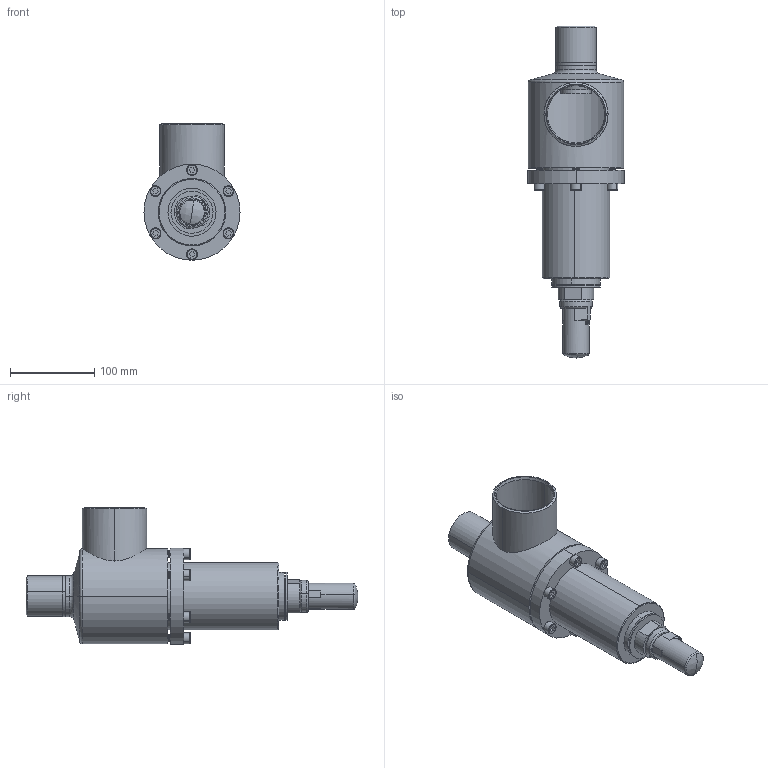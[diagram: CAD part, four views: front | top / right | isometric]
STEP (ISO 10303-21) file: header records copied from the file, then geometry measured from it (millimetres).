
FILE_DESCRIPTION (( 'STEP AP214' ), '1' );
FILE_NAME ('ORV 452AE-C14-DN40''65_R1_PS25.STEP', '2010-06-17T08:36:43', ( 'Eckhard Grams' ), ( 'AWP Kälte Klima Armaturen GmbH' ), 'SwSTEP 2.0', 'SolidWorks 2002296', '' );
FILE_SCHEMA (( 'AUTOMOTIVE_DESIGN' ));
Length unit declared in the file: millimetre
Products named in the file (11): ORV 452AE-C14-DN40''65_R1_PS25; Deckel_ORV_DN40-50_Standard; Kappe SVA-SVU-ORV_DN10-40 (M27x1,5)_Standard; Geh-kpl43200B14-DN40''65_R1_PS25_Standard; Rohrstutzen43200E14-DN40''65_R1_STANDARD; Geh-körper,kpl43200B14-DN40_PS25_R1_Standard; Rohrstutzen-E43200E14-DN40_R1_STANDARD; bead43200B14-Geh-kpl-PS25_Standard; Haube-ORV-DN40-50_Standard; Loser-FL44331.14-DN40-SVU_PS25_(DN40-50-SVA-ORV)_Standard; Zylinderschraube-DIN912-M 8x30_M 8x 25
Assembly tree (15 placements, depth 3):
  ORV 452AE-C14-DN40''65_R1_PS25
    Zylinderschraube-DIN912-M 8x30_M 8x 25  x6
    Deckel_ORV_DN40-50_Standard
    Loser-FL44331.14-DN40-SVU_PS25_(DN40-50-SVA-ORV)_Standard
    Kappe SVA-SVU-ORV_DN10-40 (M27x1,5)_Standard
    Geh-kpl43200B14-DN40''65_R1_PS25_Standard
      Rohrstutzen-E43200E14-DN40_R1_STANDARD
      Geh-körper,kpl43200B14-DN40_PS25_R1_Standard
      Rohrstutzen43200E14-DN40''65_R1_STANDARD
      bead43200B14-Geh-kpl-PS25_Standard
    Haube-ORV-DN40-50_Standard
Bounding box: 114 x 394 x 162 mm (x, y, z)
Volume: 787063.3 mm3; surface area: 274836 mm2
Topology: 14 solids, 14 shells, 647 faces, 1668 edges, 1071 vertices
Faces by surface type: cylinder 398, plane 114, cone 70, torus 37, bspline 24, sphere 4
Entity records: 24238 total; most frequent: CARTESIAN_POINT 15365, ORIENTED_EDGE 1698, DIRECTION 1629, EDGE_CURVE 849, AXIS2_PLACEMENT_3D 665, VERTEX_POINT 541, EDGE_LOOP 408, FACE_OUTER_BOUND 352
